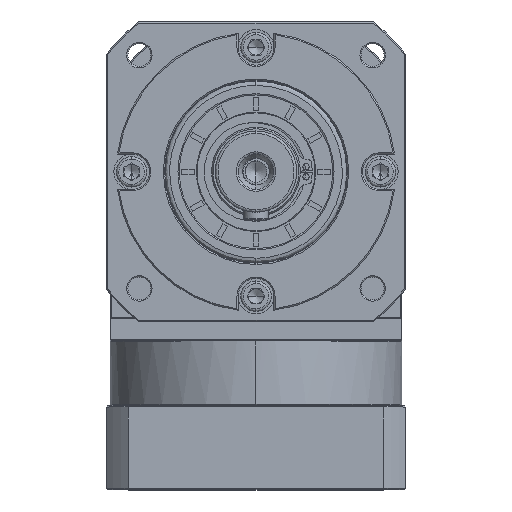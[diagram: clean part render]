
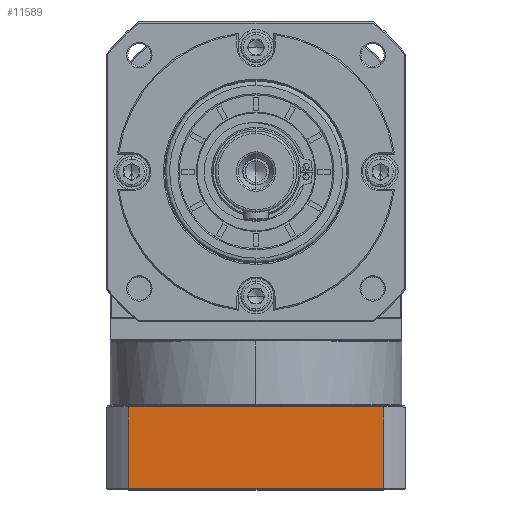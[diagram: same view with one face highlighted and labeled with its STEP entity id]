
A CAD part, top view. The second image highlights one B-rep face of the part: STEP entity #11589.
In plain terms, the highlighted planar face has unit normal (0, 0, 1).
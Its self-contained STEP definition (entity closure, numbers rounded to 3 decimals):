
#95 = ORIENTED_EDGE ( 'NONE', *, *, #134877, .F. ) ;
#2905 = AXIS2_PLACEMENT_3D ( 'NONE', #106960, #30528, #122452 ) ;
#4398 = VERTEX_POINT ( 'NONE', #30967 ) ;
#8614 = CARTESIAN_POINT ( 'NONE',  ( 125.068, -39.21, 141.751 ) ) ;
#9138 = DIRECTION ( 'NONE',  ( -1., 0., 0. ) ) ;
#11589 = ADVANCED_FACE ( 'NONE', ( #161273 ), #68503, .F. ) ;
#14809 = VECTOR ( 'NONE', #60378, 1000. ) ;
#25568 = DIRECTION ( 'NONE',  ( 0., -1., 0. ) ) ;
#26784 = CARTESIAN_POINT ( 'NONE',  ( 225.571, -6.71, 141.751 ) ) ;
#27640 = CARTESIAN_POINT ( 'NONE',  ( 125.068, -38.71, 141.751 ) ) ;
#27706 = DIRECTION ( 'NONE',  ( 1., 0., 0. ) ) ;
#28473 = ORIENTED_EDGE ( 'NONE', *, *, #166775, .F. ) ;
#30528 = DIRECTION ( 'NONE',  ( 0., 0., -1. ) ) ;
#30967 = CARTESIAN_POINT ( 'NONE',  ( 125.068, -6.71, 141.751 ) ) ;
#34251 = VERTEX_POINT ( 'NONE', #27640 ) ;
#36469 = EDGE_LOOP ( 'NONE', ( #58083, #95, #152026, #28473 ) ) ;
#41386 = VECTOR ( 'NONE', #27706, 1000. ) ;
#48048 = EDGE_CURVE ( 'NONE', #34251, #4398, #86788, .T. ) ;
#54384 = LINE ( 'NONE', #153376, #111825 ) ;
#58083 = ORIENTED_EDGE ( 'NONE', *, *, #157083, .F. ) ;
#60378 = DIRECTION ( 'NONE',  ( 0., 1., 0. ) ) ;
#68503 = PLANE ( 'NONE',  #2905 ) ;
#76312 = LINE ( 'NONE', #105230, #41386 ) ;
#86788 = LINE ( 'NONE', #8614, #14809 ) ;
#105230 = CARTESIAN_POINT ( 'NONE',  ( 116.32, -6.71, 141.751 ) ) ;
#106960 = CARTESIAN_POINT ( 'NONE',  ( 116.32, -39.21, 141.751 ) ) ;
#111825 = VECTOR ( 'NONE', #9138, 1000. ) ;
#122452 = DIRECTION ( 'NONE',  ( -1., 0., 0. ) ) ;
#124321 = LINE ( 'NONE', #156560, #165375 ) ;
#125794 = VERTEX_POINT ( 'NONE', #126819 ) ;
#126819 = CARTESIAN_POINT ( 'NONE',  ( 225.571, -38.71, 141.751 ) ) ;
#134877 = EDGE_CURVE ( 'NONE', #4398, #160567, #76312, .T. ) ;
#152026 = ORIENTED_EDGE ( 'NONE', *, *, #48048, .F. ) ;
#153376 = CARTESIAN_POINT ( 'NONE',  ( 116.32, -38.71, 141.751 ) ) ;
#156560 = CARTESIAN_POINT ( 'NONE',  ( 225.571, 215.185, 141.751 ) ) ;
#157083 = EDGE_CURVE ( 'NONE', #160567, #125794, #124321, .T. ) ;
#160567 = VERTEX_POINT ( 'NONE', #26784 ) ;
#161273 = FACE_OUTER_BOUND ( 'NONE', #36469, .T. ) ;
#165375 = VECTOR ( 'NONE', #25568, 1000. ) ;
#166775 = EDGE_CURVE ( 'NONE', #125794, #34251, #54384, .T. ) ;
